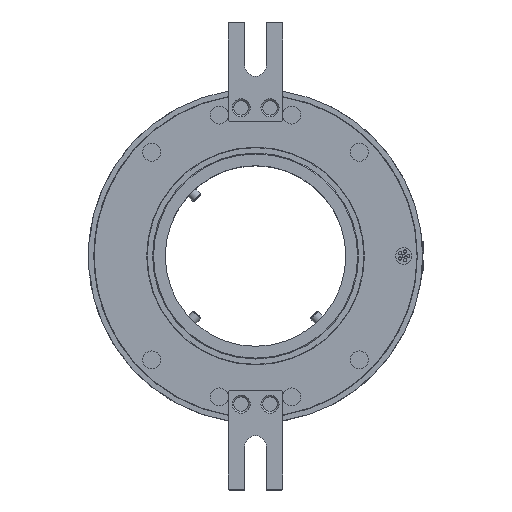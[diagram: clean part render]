
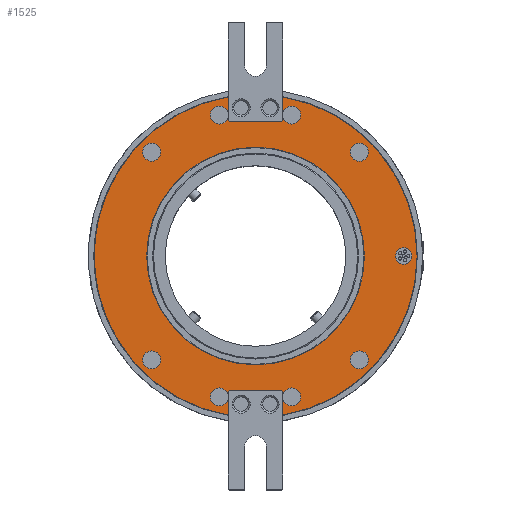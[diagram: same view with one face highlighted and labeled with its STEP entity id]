
A CAD part, top view. The second image highlights one B-rep face of the part: STEP entity #1525.
In plain terms, the highlighted planar face has unit normal (0, 0, 1).
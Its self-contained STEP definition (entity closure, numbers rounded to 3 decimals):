
#172=FACE_BOUND('',#3309,.T.);
#173=FACE_BOUND('',#3310,.T.);
#174=FACE_BOUND('',#3311,.T.);
#175=FACE_BOUND('',#3312,.T.);
#176=FACE_BOUND('',#3313,.T.);
#177=FACE_BOUND('',#3314,.T.);
#178=FACE_BOUND('',#3315,.T.);
#931=CIRCLE('',#14021,5.);
#932=CIRCLE('',#14022,89.4);
#933=CIRCLE('',#14023,5.);
#934=CIRCLE('',#14024,5.);
#935=CIRCLE('',#14025,89.4);
#936=CIRCLE('',#14026,5.);
#937=CIRCLE('',#14027,60.25);
#938=CIRCLE('',#14028,5.);
#939=CIRCLE('',#14029,4.5);
#940=CIRCLE('',#14030,5.);
#941=CIRCLE('',#14031,5.);
#942=CIRCLE('',#14032,5.);
#1525=ADVANCED_FACE('',(#172,#173,#174,#175,#176,#177,#178),#2047,.T.);
#2047=PLANE('',#14033);
#3309=EDGE_LOOP('',(#6558,#6559,#6560,#6561,#6562,#6563,#6564,#6565,#6566,
#6567,#6568,#6569,#6570,#6571,#6572,#6573,#6574,#6575,#6576,#6577));
#3310=EDGE_LOOP('',(#6578));
#3311=EDGE_LOOP('',(#6579));
#3312=EDGE_LOOP('',(#6580));
#3313=EDGE_LOOP('',(#6581));
#3314=EDGE_LOOP('',(#6582));
#3315=EDGE_LOOP('',(#6583));
#3904=LINE('',#26049,#4452);
#3905=LINE('',#26052,#4453);
#3906=LINE('',#26054,#4454);
#3907=LINE('',#26056,#4455);
#3908=LINE('',#26058,#4456);
#3909=LINE('',#26061,#4457);
#3910=LINE('',#26065,#4458);
#3911=LINE('',#26068,#4459);
#3912=LINE('',#26070,#4460);
#3913=LINE('',#26072,#4461);
#3914=LINE('',#26074,#4462);
#3915=LINE('',#26076,#4463);
#3916=LINE('',#26079,#4464);
#3917=LINE('',#26083,#4465);
#4452=VECTOR('',#15446,1.);
#4453=VECTOR('',#15447,1.);
#4454=VECTOR('',#15448,1.);
#4455=VECTOR('',#15449,1.);
#4456=VECTOR('',#15450,1.);
#4457=VECTOR('',#15453,1.);
#4458=VECTOR('',#15456,1.);
#4459=VECTOR('',#15459,1.);
#4460=VECTOR('',#15460,1.);
#4461=VECTOR('',#15461,1.);
#4462=VECTOR('',#15462,1.);
#4463=VECTOR('',#15463,1.);
#4464=VECTOR('',#15466,1.);
#4465=VECTOR('',#15469,1.);
#6558=ORIENTED_EDGE('',*,*,#11362,.F.);
#6559=ORIENTED_EDGE('',*,*,#11363,.T.);
#6560=ORIENTED_EDGE('',*,*,#11364,.F.);
#6561=ORIENTED_EDGE('',*,*,#11365,.T.);
#6562=ORIENTED_EDGE('',*,*,#11366,.F.);
#6563=ORIENTED_EDGE('',*,*,#11367,.T.);
#6564=ORIENTED_EDGE('',*,*,#11368,.F.);
#6565=ORIENTED_EDGE('',*,*,#11369,.F.);
#6566=ORIENTED_EDGE('',*,*,#11370,.F.);
#6567=ORIENTED_EDGE('',*,*,#11371,.T.);
#6568=ORIENTED_EDGE('',*,*,#11372,.F.);
#6569=ORIENTED_EDGE('',*,*,#11373,.T.);
#6570=ORIENTED_EDGE('',*,*,#11374,.F.);
#6571=ORIENTED_EDGE('',*,*,#11375,.T.);
#6572=ORIENTED_EDGE('',*,*,#11376,.F.);
#6573=ORIENTED_EDGE('',*,*,#11377,.T.);
#6574=ORIENTED_EDGE('',*,*,#11378,.F.);
#6575=ORIENTED_EDGE('',*,*,#11379,.F.);
#6576=ORIENTED_EDGE('',*,*,#11380,.F.);
#6577=ORIENTED_EDGE('',*,*,#11381,.T.);
#6578=ORIENTED_EDGE('',*,*,#11382,.T.);
#6579=ORIENTED_EDGE('',*,*,#11383,.T.);
#6580=ORIENTED_EDGE('',*,*,#11384,.T.);
#6581=ORIENTED_EDGE('',*,*,#11385,.T.);
#6582=ORIENTED_EDGE('',*,*,#11386,.T.);
#6583=ORIENTED_EDGE('',*,*,#11387,.T.);
#9560=VERTEX_POINT('',#26050);
#9561=VERTEX_POINT('',#26051);
#9562=VERTEX_POINT('',#26053);
#9563=VERTEX_POINT('',#26055);
#9564=VERTEX_POINT('',#26057);
#9565=VERTEX_POINT('',#26059);
#9566=VERTEX_POINT('',#26062);
#9567=VERTEX_POINT('',#26064);
#9568=VERTEX_POINT('',#26066);
#9569=VERTEX_POINT('',#26069);
#9570=VERTEX_POINT('',#26071);
#9571=VERTEX_POINT('',#26073);
#9572=VERTEX_POINT('',#26075);
#9573=VERTEX_POINT('',#26077);
#9574=VERTEX_POINT('',#26080);
#9575=VERTEX_POINT('',#26082);
#9576=VERTEX_POINT('',#26086);
#9577=VERTEX_POINT('',#26088);
#9578=VERTEX_POINT('',#26090);
#9579=VERTEX_POINT('',#26092);
#9580=VERTEX_POINT('',#26094);
#9581=VERTEX_POINT('',#26096);
#11362=EDGE_CURVE('',#9560,#9561,#3904,.T.);
#11363=EDGE_CURVE('',#9560,#9562,#3905,.T.);
#11364=EDGE_CURVE('',#9563,#9562,#3906,.T.);
#11365=EDGE_CURVE('',#9563,#9564,#3907,.T.);
#11366=EDGE_CURVE('',#9565,#9564,#3908,.T.);
#11367=EDGE_CURVE('',#9565,#9565,#931,.T.);
#11368=EDGE_CURVE('',#9566,#9565,#3909,.T.);
#11369=EDGE_CURVE('',#9567,#9566,#932,.T.);
#11370=EDGE_CURVE('',#9568,#9567,#3910,.T.);
#11371=EDGE_CURVE('',#9568,#9568,#933,.T.);
#11372=EDGE_CURVE('',#9569,#9568,#3911,.T.);
#11373=EDGE_CURVE('',#9569,#9570,#3912,.T.);
#11374=EDGE_CURVE('',#9571,#9570,#3913,.T.);
#11375=EDGE_CURVE('',#9571,#9572,#3914,.T.);
#11376=EDGE_CURVE('',#9573,#9572,#3915,.T.);
#11377=EDGE_CURVE('',#9573,#9573,#934,.T.);
#11378=EDGE_CURVE('',#9574,#9573,#3916,.T.);
#11379=EDGE_CURVE('',#9575,#9574,#935,.T.);
#11380=EDGE_CURVE('',#9561,#9575,#3917,.T.);
#11381=EDGE_CURVE('',#9561,#9561,#936,.T.);
#11382=EDGE_CURVE('',#9576,#9576,#937,.T.);
#11383=EDGE_CURVE('',#9577,#9577,#938,.T.);
#11384=EDGE_CURVE('',#9578,#9578,#939,.T.);
#11385=EDGE_CURVE('',#9579,#9579,#940,.T.);
#11386=EDGE_CURVE('',#9580,#9580,#941,.T.);
#11387=EDGE_CURVE('',#9581,#9581,#942,.T.);
#14021=AXIS2_PLACEMENT_3D('',#26060,#15451,#15452);
#14022=AXIS2_PLACEMENT_3D('',#26063,#15454,#15455);
#14023=AXIS2_PLACEMENT_3D('',#26067,#15457,#15458);
#14024=AXIS2_PLACEMENT_3D('',#26078,#15464,#15465);
#14025=AXIS2_PLACEMENT_3D('',#26081,#15467,#15468);
#14026=AXIS2_PLACEMENT_3D('',#26084,#15470,#15471);
#14027=AXIS2_PLACEMENT_3D('',#26085,#15472,#15473);
#14028=AXIS2_PLACEMENT_3D('',#26087,#15474,#15475);
#14029=AXIS2_PLACEMENT_3D('',#26089,#15476,#15477);
#14030=AXIS2_PLACEMENT_3D('',#26091,#15478,#15479);
#14031=AXIS2_PLACEMENT_3D('',#26093,#15480,#15481);
#14032=AXIS2_PLACEMENT_3D('',#26095,#15482,#15483);
#14033=AXIS2_PLACEMENT_3D('',#26097,#15484,#15485);
#15446=DIRECTION('',(0.,-1.,0.));
#15447=DIRECTION('',(0.707,0.707,0.));
#15448=DIRECTION('',(-1.,0.,0.));
#15449=DIRECTION('',(0.707,-0.707,0.));
#15450=DIRECTION('',(0.,1.,0.));
#15451=DIRECTION('',(0.,0.,-1.));
#15452=DIRECTION('',(-1.,0.,0.));
#15453=DIRECTION('',(0.,1.,0.));
#15454=DIRECTION('',(0.,0.,-1.));
#15455=DIRECTION('',(1.,0.,0.));
#15456=DIRECTION('',(0.,1.,0.));
#15457=DIRECTION('',(0.,0.,-1.));
#15458=DIRECTION('',(-1.,0.,0.));
#15459=DIRECTION('',(0.,1.,0.));
#15460=DIRECTION('',(-0.707,-0.707,0.));
#15461=DIRECTION('',(1.,0.,0.));
#15462=DIRECTION('',(-0.707,0.707,0.));
#15463=DIRECTION('',(0.,-1.,0.));
#15464=DIRECTION('',(0.,0.,-1.));
#15465=DIRECTION('',(-1.,0.,0.));
#15466=DIRECTION('',(0.,-1.,0.));
#15467=DIRECTION('',(0.,0.,-1.));
#15468=DIRECTION('',(1.,0.,0.));
#15469=DIRECTION('',(0.,-1.,0.));
#15470=DIRECTION('',(0.,0.,-1.));
#15471=DIRECTION('',(-1.,0.,0.));
#15472=DIRECTION('',(0.,0.,-1.));
#15473=DIRECTION('',(1.,0.,0.));
#15474=DIRECTION('',(0.,0.,-1.));
#15475=DIRECTION('',(-1.,0.,0.));
#15476=DIRECTION('',(0.,0.,-1.));
#15477=DIRECTION('',(-1.,0.,0.));
#15478=DIRECTION('',(0.,0.,-1.));
#15479=DIRECTION('',(-1.,0.,0.));
#15480=DIRECTION('',(0.,0.,-1.));
#15481=DIRECTION('',(-1.,0.,0.));
#15482=DIRECTION('',(0.,0.,-1.));
#15483=DIRECTION('',(-1.,0.,0.));
#15484=DIRECTION('',(0.,0.,1.));
#15485=DIRECTION('',(1.,0.,0.));
#26049=CARTESIAN_POINT('',(-15.,-102.,77.5));
#26050=CARTESIAN_POINT('',(-15.,-75.,77.5));
#26051=CARTESIAN_POINT('',(-15.,-78.,77.5));
#26052=CARTESIAN_POINT('',(-21.,-81.,77.5));
#26053=CARTESIAN_POINT('',(-14.5,-74.5,77.5));
#26054=CARTESIAN_POINT('',(0.,-74.5,77.5));
#26055=CARTESIAN_POINT('',(14.5,-74.5,77.5));
#26056=CARTESIAN_POINT('',(21.,-81.,77.5));
#26057=CARTESIAN_POINT('',(15.,-75.,77.5));
#26058=CARTESIAN_POINT('',(15.,-102.,77.5));
#26059=CARTESIAN_POINT('',(15.,-78.,77.5));
#26060=CARTESIAN_POINT('',(20.,-78.,77.5));
#26061=CARTESIAN_POINT('',(15.,-102.,77.5));
#26062=CARTESIAN_POINT('',(15.,-88.133,77.5));
#26063=CARTESIAN_POINT('',(0.,0.,77.5));
#26064=CARTESIAN_POINT('',(15.,88.133,77.5));
#26065=CARTESIAN_POINT('',(15.,102.,77.5));
#26066=CARTESIAN_POINT('',(15.,78.,77.5));
#26067=CARTESIAN_POINT('',(20.,78.,77.5));
#26068=CARTESIAN_POINT('',(15.,102.,77.5));
#26069=CARTESIAN_POINT('',(15.,75.,77.5));
#26070=CARTESIAN_POINT('',(21.,81.,77.5));
#26071=CARTESIAN_POINT('',(14.5,74.5,77.5));
#26072=CARTESIAN_POINT('',(0.,74.5,77.5));
#26073=CARTESIAN_POINT('',(-14.5,74.5,77.5));
#26074=CARTESIAN_POINT('',(-21.,81.,77.5));
#26075=CARTESIAN_POINT('',(-15.,75.,77.5));
#26076=CARTESIAN_POINT('',(-15.,102.,77.5));
#26077=CARTESIAN_POINT('',(-15.,78.,77.5));
#26078=CARTESIAN_POINT('',(-20.,78.,77.5));
#26079=CARTESIAN_POINT('',(-15.,102.,77.5));
#26080=CARTESIAN_POINT('',(-15.,88.133,77.5));
#26081=CARTESIAN_POINT('',(0.,0.,77.5));
#26082=CARTESIAN_POINT('',(-15.,-88.133,77.5));
#26083=CARTESIAN_POINT('',(-15.,-102.,77.5));
#26084=CARTESIAN_POINT('',(-20.,-78.,77.5));
#26085=CARTESIAN_POINT('',(0.,0.,77.5));
#26086=CARTESIAN_POINT('',(60.25,0.,77.5));
#26087=CARTESIAN_POINT('',(57.5,57.5,77.5));
#26088=CARTESIAN_POINT('',(52.5,57.5,77.5));
#26089=CARTESIAN_POINT('',(82.,0.,77.5));
#26090=CARTESIAN_POINT('',(77.5,0.,77.5));
#26091=CARTESIAN_POINT('',(57.5,-57.5,77.5));
#26092=CARTESIAN_POINT('',(52.5,-57.5,77.5));
#26093=CARTESIAN_POINT('',(-57.5,-57.5,77.5));
#26094=CARTESIAN_POINT('',(-62.5,-57.5,77.5));
#26095=CARTESIAN_POINT('',(-57.5,57.5,77.5));
#26096=CARTESIAN_POINT('',(-62.5,57.5,77.5));
#26097=CARTESIAN_POINT('',(0.,0.,77.5));
